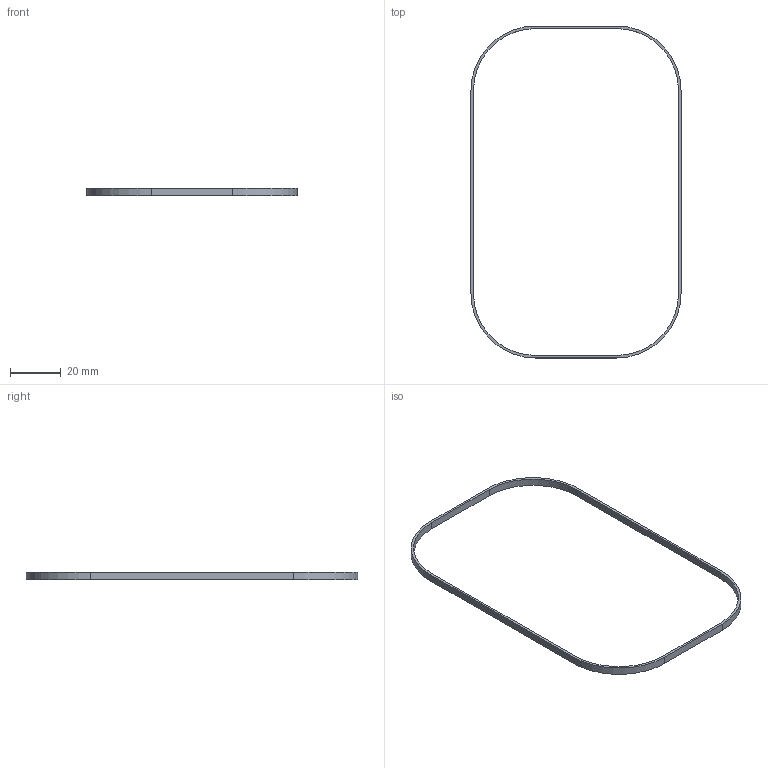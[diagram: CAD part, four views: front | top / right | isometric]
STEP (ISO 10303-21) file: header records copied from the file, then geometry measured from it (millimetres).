
FILE_DESCRIPTION(('Open CASCADE Model'),'2;1');
FILE_NAME('Open CASCADE Shape Model','2026-09-08T13:27:13',('Author'),( 'Open CASCADE'),'Open CASCADE STEP processor 7.7','Open CASCADE 7.7' ,'Unknown');
FILE_SCHEMA(('AUTOMOTIVE_DESIGN { 1 0 10303 214 1 1 1 1 }'));
Length unit declared in the file: millimetre
Products named in the file (1): Open CASCADE STEP translator 7.7 7
Bounding box: 82.8 x 130.8 x 3 mm (x, y, z)
Volume: 1141.4 mm3; surface area: 3043.6 mm2
Topology: 1 solids, 1 shells, 18 faces, 48 edges, 32 vertices
Faces by surface type: plane 10, cylinder 8
Entity records: 1230 total; most frequent: CARTESIAN_POINT 243, DIRECTION 190, LINE 112, VECTOR 112, ORIENTED_EDGE 96, PCURVE 96, DEFINITIONAL_REPRESENTATION 96, EDGE_CURVE 48
